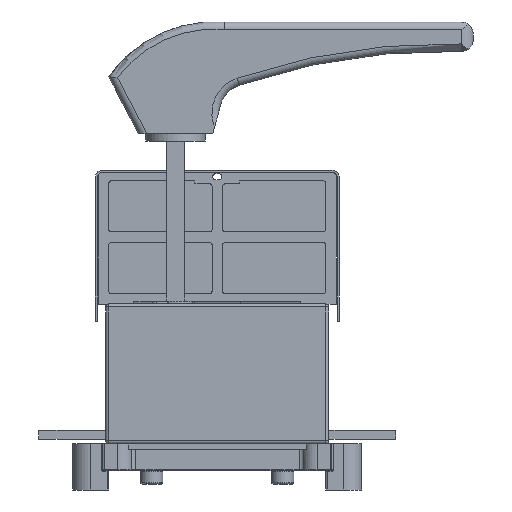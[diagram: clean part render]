
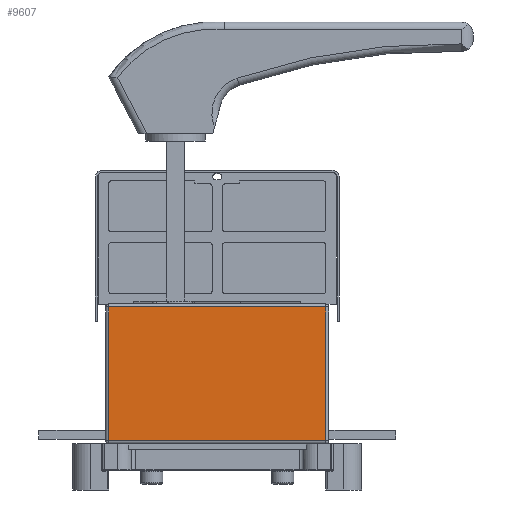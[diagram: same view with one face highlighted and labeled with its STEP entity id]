
A CAD part, left-side view. The second image highlights one B-rep face of the part: STEP entity #9607.
In plain terms, the highlighted planar face has unit normal (-1, 0, 0).
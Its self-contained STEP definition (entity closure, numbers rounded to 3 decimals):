
#2930=LINE('',#50955,#5702);
#2935=LINE('',#50976,#5707);
#2938=LINE('',#50999,#5710);
#2945=LINE('',#51009,#5717);
#5702=VECTOR('',#39177,1.);
#5707=VECTOR('',#39202,1.);
#5710=VECTOR('',#39231,1.);
#5717=VECTOR('',#39244,1.);
#6654=PLANE('',#31371);
#8051=FACE_OUTER_BOUND('',#12451,.T.);
#9607=ADVANCED_FACE('',(#8051),#6654,.F.);
#12451=EDGE_LOOP('',(#19896,#19897,#19898,#19899));
#19896=ORIENTED_EDGE('',*,*,#27447,.T.);
#19897=ORIENTED_EDGE('',*,*,#27429,.T.);
#19898=ORIENTED_EDGE('',*,*,#27440,.T.);
#19899=ORIENTED_EDGE('',*,*,#27418,.T.);
#23458=VERTEX_POINT('',#50941);
#23462=VERTEX_POINT('',#50952);
#23467=VERTEX_POINT('',#50969);
#23468=VERTEX_POINT('',#50973);
#27418=EDGE_CURVE('',#23462,#23458,#2930,.T.);
#27429=EDGE_CURVE('',#23468,#23467,#2935,.T.);
#27440=EDGE_CURVE('',#23467,#23462,#2938,.T.);
#27447=EDGE_CURVE('',#23458,#23468,#2945,.T.);
#31371=AXIS2_PLACEMENT_3D('',#51062,#39289,#39290);
#39177=DIRECTION('',(0.,1.,0.));
#39202=DIRECTION('',(0.,-1.,0.));
#39231=DIRECTION('',(0.,0.,1.));
#39244=DIRECTION('',(0.,0.,-1.));
#39289=DIRECTION('',(1.,0.,0.));
#39290=DIRECTION('',(0.,1.,0.));
#50941=CARTESIAN_POINT('',(-150.,73.,92.));
#50952=CARTESIAN_POINT('',(-150.,-73.,92.));
#50955=CARTESIAN_POINT('',(-150.,73.,92.));
#50969=CARTESIAN_POINT('',(-150.,-73.,2.));
#50973=CARTESIAN_POINT('',(-150.,73.,2.));
#50976=CARTESIAN_POINT('',(-150.,75.,2.));
#50999=CARTESIAN_POINT('',(-150.,-73.,94.));
#51009=CARTESIAN_POINT('',(-150.,73.,94.));
#51062=CARTESIAN_POINT('',(-150.,75.,94.));
